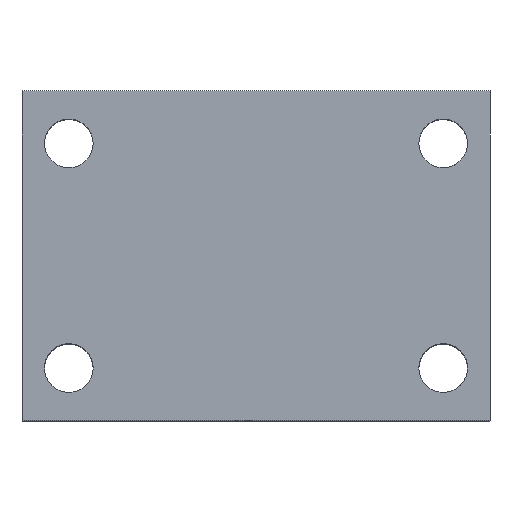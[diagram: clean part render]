
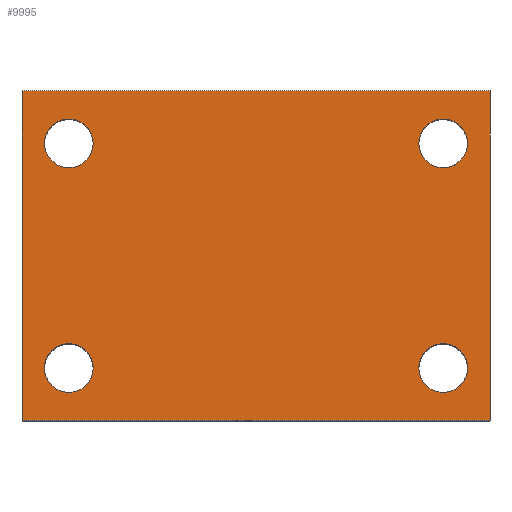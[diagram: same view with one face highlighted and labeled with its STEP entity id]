
A CAD part, top view. The second image highlights one B-rep face of the part: STEP entity #9995.
In plain terms, the highlighted planar face has unit normal (0, 0, 1).
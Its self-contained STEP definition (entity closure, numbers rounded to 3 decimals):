
#389 = DIRECTION ( 'NONE',  ( -1., 0., 0. ) ) ;
#410 = ORIENTED_EDGE ( 'NONE', *, *, #2233, .T. ) ;
#443 = ORIENTED_EDGE ( 'NONE', *, *, #797, .T. ) ;
#453 = ORIENTED_EDGE ( 'NONE', *, *, #9936, .T. ) ;
#471 = DIRECTION ( 'NONE',  ( -1., 0., 0. ) ) ;
#707 = ORIENTED_EDGE ( 'NONE', *, *, #9814, .T. ) ;
#797 = EDGE_CURVE ( 'NONE', #2531, #7730, #6085, .T. ) ;
#798 = VERTEX_POINT ( 'NONE', #5525 ) ;
#952 = FACE_OUTER_BOUND ( 'NONE', #7230, .T. ) ;
#1108 = DIRECTION ( 'NONE',  ( -1., 0., 0. ) ) ;
#1124 = AXIS2_PLACEMENT_3D ( 'NONE', #16110, #8022, #17538 ) ;
#1222 = EDGE_LOOP ( 'NONE', ( #14339, #707 ) ) ;
#1336 = CARTESIAN_POINT ( 'NONE',  ( -50., 74., 50. ) ) ;
#1406 = FACE_BOUND ( 'NONE', #5823, .T. ) ;
#1820 = EDGE_CURVE ( 'NONE', #798, #13830, #1993, .T. ) ;
#1851 = FACE_BOUND ( 'NONE', #1222, .T. ) ;
#1961 = AXIS2_PLACEMENT_3D ( 'NONE', #11525, #12715, #11416 ) ;
#1993 = LINE ( 'NONE', #13126, #8369 ) ;
#2004 = ORIENTED_EDGE ( 'NONE', *, *, #14970, .T. ) ;
#2084 = CARTESIAN_POINT ( 'NONE',  ( -62.5, 88., 50. ) ) ;
#2233 = EDGE_CURVE ( 'NONE', #6714, #16980, #2669, .T. ) ;
#2531 = VERTEX_POINT ( 'NONE', #6297 ) ;
#2669 = CIRCLE ( 'NONE', #1961, 6.5 ) ;
#2789 = DIRECTION ( 'NONE',  ( -1., 0., 0. ) ) ;
#2802 = CARTESIAN_POINT ( 'NONE',  ( -43.5, 74., 50. ) ) ;
#2826 = AXIS2_PLACEMENT_3D ( 'NONE', #1336, #10832, #2789 ) ;
#2914 = CARTESIAN_POINT ( 'NONE',  ( 56.5, 74., 50. ) ) ;
#2965 = EDGE_CURVE ( 'NONE', #9437, #13197, #16171, .T. ) ;
#3351 = VECTOR ( 'NONE', #4010, 1000. ) ;
#3521 = AXIS2_PLACEMENT_3D ( 'NONE', #15116, #7062, #16494 ) ;
#3795 = LINE ( 'NONE', #17490, #3351 ) ;
#3891 = CARTESIAN_POINT ( 'NONE',  ( -62.5, 88., 50. ) ) ;
#3999 = EDGE_CURVE ( 'NONE', #16020, #798, #14855, .T. ) ;
#4010 = DIRECTION ( 'NONE',  ( 0., -1., 0. ) ) ;
#4046 = EDGE_CURVE ( 'NONE', #7730, #2531, #14430, .T. ) ;
#4148 = VECTOR ( 'NONE', #6526, 1000. ) ;
#4611 = DIRECTION ( 'NONE',  ( 0., 0., -1. ) ) ;
#4676 = FACE_BOUND ( 'NONE', #17733, .T. ) ;
#4966 = VERTEX_POINT ( 'NONE', #5630 ) ;
#5095 = ORIENTED_EDGE ( 'NONE', *, *, #5216, .T. ) ;
#5216 = EDGE_CURVE ( 'NONE', #10157, #14402, #8305, .T. ) ;
#5525 = CARTESIAN_POINT ( 'NONE',  ( 62.5, 88., 50. ) ) ;
#5630 = CARTESIAN_POINT ( 'NONE',  ( -62.5, 0., 50. ) ) ;
#5682 = EDGE_LOOP ( 'NONE', ( #443, #15244 ) ) ;
#5823 = EDGE_LOOP ( 'NONE', ( #5095, #2004 ) ) ;
#5976 = CARTESIAN_POINT ( 'NONE',  ( -56.5, 14., 50. ) ) ;
#6085 = CIRCLE ( 'NONE', #8444, 6.5 ) ;
#6297 = CARTESIAN_POINT ( 'NONE',  ( -56.5, 74., 50. ) ) ;
#6445 = CARTESIAN_POINT ( 'NONE',  ( -62.5, 0., 50. ) ) ;
#6526 = DIRECTION ( 'NONE',  ( 1., 0., 0. ) ) ;
#6714 = VERTEX_POINT ( 'NONE', #10724 ) ;
#6830 = DIRECTION ( 'NONE',  ( 0., 0., -1. ) ) ;
#7062 = DIRECTION ( 'NONE',  ( 0., 0., -1. ) ) ;
#7230 = EDGE_LOOP ( 'NONE', ( #453, #9518, #10313, #16306 ) ) ;
#7730 = VERTEX_POINT ( 'NONE', #2802 ) ;
#7947 = CARTESIAN_POINT ( 'NONE',  ( -62.5, 88., 50. ) ) ;
#8022 = DIRECTION ( 'NONE',  ( 0., 0., -1. ) ) ;
#8238 = FACE_BOUND ( 'NONE', #5682, .T. ) ;
#8305 = CIRCLE ( 'NONE', #1124, 6.5 ) ;
#8369 = VECTOR ( 'NONE', #15436, 1000. ) ;
#8444 = AXIS2_PLACEMENT_3D ( 'NONE', #16263, #6830, #14876 ) ;
#8591 = DIRECTION ( 'NONE',  ( 0., 0., -1. ) ) ;
#8658 = DIRECTION ( 'NONE',  ( 0., 0., -1. ) ) ;
#8901 = AXIS2_PLACEMENT_3D ( 'NONE', #16769, #8658, #471 ) ;
#9028 = CARTESIAN_POINT ( 'NONE',  ( 56.5, 14., 50. ) ) ;
#9227 = PLANE ( 'NONE',  #16901 ) ;
#9280 = DIRECTION ( 'NONE',  ( 0., 0., -1. ) ) ;
#9437 = VERTEX_POINT ( 'NONE', #5976 ) ;
#9518 = ORIENTED_EDGE ( 'NONE', *, *, #1820, .F. ) ;
#9814 = EDGE_CURVE ( 'NONE', #13197, #9437, #9923, .T. ) ;
#9923 = CIRCLE ( 'NONE', #11398, 6.5 ) ;
#9936 = EDGE_CURVE ( 'NONE', #4966, #13830, #15401, .T. ) ;
#9995 = ADVANCED_FACE ( 'NONE', ( #8238, #1851, #4676, #1406, #952 ), #9227, .F. ) ;
#10013 = ORIENTED_EDGE ( 'NONE', *, *, #15302, .T. ) ;
#10075 = CARTESIAN_POINT ( 'NONE',  ( 62.5, 0., 50. ) ) ;
#10157 = VERTEX_POINT ( 'NONE', #12297 ) ;
#10313 = ORIENTED_EDGE ( 'NONE', *, *, #3999, .F. ) ;
#10724 = CARTESIAN_POINT ( 'NONE',  ( 43.5, 14., 50. ) ) ;
#10832 = DIRECTION ( 'NONE',  ( 0., 0., -1. ) ) ;
#10917 = CARTESIAN_POINT ( 'NONE',  ( -43.5, 14., 50. ) ) ;
#11398 = AXIS2_PLACEMENT_3D ( 'NONE', #12624, #4611, #13995 ) ;
#11416 = DIRECTION ( 'NONE',  ( -1., 0., 0. ) ) ;
#11525 = CARTESIAN_POINT ( 'NONE',  ( 50., 14., 50. ) ) ;
#11783 = VECTOR ( 'NONE', #17270, 1000. ) ;
#11897 = AXIS2_PLACEMENT_3D ( 'NONE', #16692, #8591, #389 ) ;
#12297 = CARTESIAN_POINT ( 'NONE',  ( 43.5, 74., 50. ) ) ;
#12624 = CARTESIAN_POINT ( 'NONE',  ( -50., 14., 50. ) ) ;
#12715 = DIRECTION ( 'NONE',  ( 0., 0., -1. ) ) ;
#13126 = CARTESIAN_POINT ( 'NONE',  ( 62.5, 88., 50. ) ) ;
#13197 = VERTEX_POINT ( 'NONE', #10917 ) ;
#13830 = VERTEX_POINT ( 'NONE', #10075 ) ;
#13995 = DIRECTION ( 'NONE',  ( -1., 0., 0. ) ) ;
#14320 = EDGE_CURVE ( 'NONE', #16020, #4966, #3795, .T. ) ;
#14339 = ORIENTED_EDGE ( 'NONE', *, *, #2965, .T. ) ;
#14402 = VERTEX_POINT ( 'NONE', #2914 ) ;
#14430 = CIRCLE ( 'NONE', #2826, 6.5 ) ;
#14855 = LINE ( 'NONE', #3891, #4148 ) ;
#14876 = DIRECTION ( 'NONE',  ( -1., 0., 0. ) ) ;
#14970 = EDGE_CURVE ( 'NONE', #14402, #10157, #16193, .T. ) ;
#15116 = CARTESIAN_POINT ( 'NONE',  ( 50., 14., 50. ) ) ;
#15244 = ORIENTED_EDGE ( 'NONE', *, *, #4046, .T. ) ;
#15302 = EDGE_CURVE ( 'NONE', #16980, #6714, #17753, .T. ) ;
#15401 = LINE ( 'NONE', #6445, #11783 ) ;
#15436 = DIRECTION ( 'NONE',  ( 0., -1., 0. ) ) ;
#16020 = VERTEX_POINT ( 'NONE', #2084 ) ;
#16110 = CARTESIAN_POINT ( 'NONE',  ( 50., 74., 50. ) ) ;
#16171 = CIRCLE ( 'NONE', #8901, 6.5 ) ;
#16193 = CIRCLE ( 'NONE', #11897, 6.5 ) ;
#16263 = CARTESIAN_POINT ( 'NONE',  ( -50., 74., 50. ) ) ;
#16306 = ORIENTED_EDGE ( 'NONE', *, *, #14320, .T. ) ;
#16494 = DIRECTION ( 'NONE',  ( -1., 0., 0. ) ) ;
#16692 = CARTESIAN_POINT ( 'NONE',  ( 50., 74., 50. ) ) ;
#16769 = CARTESIAN_POINT ( 'NONE',  ( -50., 14., 50. ) ) ;
#16901 = AXIS2_PLACEMENT_3D ( 'NONE', #7947, #9280, #1108 ) ;
#16980 = VERTEX_POINT ( 'NONE', #9028 ) ;
#17270 = DIRECTION ( 'NONE',  ( 1., 0., 0. ) ) ;
#17490 = CARTESIAN_POINT ( 'NONE',  ( -62.5, 88., 50. ) ) ;
#17538 = DIRECTION ( 'NONE',  ( -1., 0., 0. ) ) ;
#17733 = EDGE_LOOP ( 'NONE', ( #410, #10013 ) ) ;
#17753 = CIRCLE ( 'NONE', #3521, 6.5 ) ;
